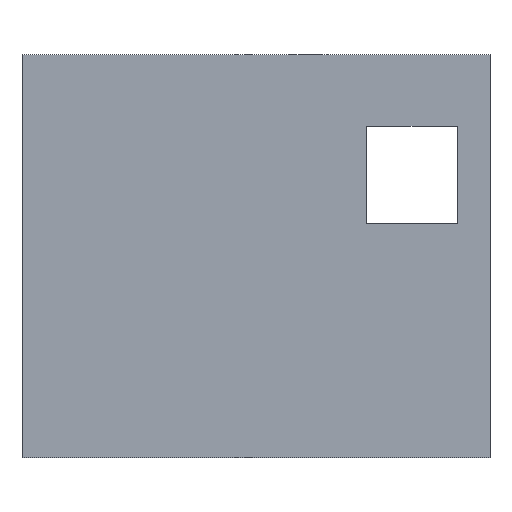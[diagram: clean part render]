
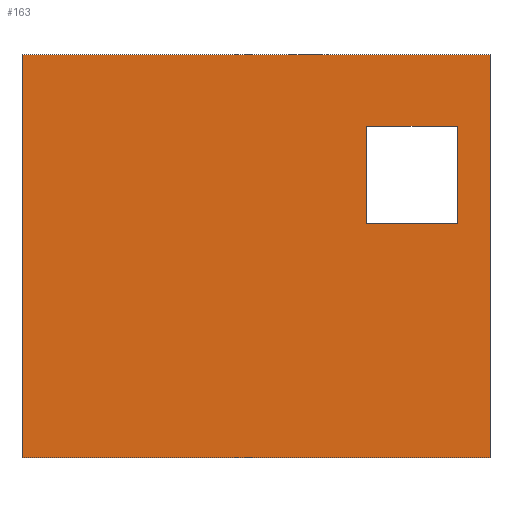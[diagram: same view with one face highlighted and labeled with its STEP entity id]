
A CAD part, front view. The second image highlights one B-rep face of the part: STEP entity #163.
In plain terms, the highlighted planar face has unit normal (0, -1, 0).
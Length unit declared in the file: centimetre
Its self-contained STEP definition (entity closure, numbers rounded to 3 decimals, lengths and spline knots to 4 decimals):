
#2 = DIRECTION ( 'NONE',  ( 0., 0., -1. ) ) ;
#7 = CARTESIAN_POINT ( 'NONE',  ( 3.1, 0., 0.5 ) ) ;
#8 = EDGE_CURVE ( 'NONE', #199, #530, #263, .T. ) ;
#17 = DIRECTION ( 'NONE',  ( 0., 0., 1. ) ) ;
#21 = EDGE_CURVE ( 'NONE', #395, #503, #559, .T. ) ;
#24 = ORIENTED_EDGE ( 'NONE', *, *, #8, .F. ) ;
#27 = EDGE_LOOP ( 'NONE', ( #155, #178, #207, #328 ) ) ;
#42 = CARTESIAN_POINT ( 'NONE',  ( 3.6, 0., -3.1 ) ) ;
#73 = CARTESIAN_POINT ( 'NONE',  ( -3.6, 0., -3.1 ) ) ;
#97 = LINE ( 'NONE', #492, #114 ) ;
#99 = ORIENTED_EDGE ( 'NONE', *, *, #513, .F. ) ;
#114 = VECTOR ( 'NONE', #208, 100. ) ;
#117 = EDGE_CURVE ( 'NONE', #503, #577, #512, .T. ) ;
#119 = DIRECTION ( 'NONE',  ( -1., 0., 0. ) ) ;
#133 = CARTESIAN_POINT ( 'NONE',  ( 1.7, 0., 0.5 ) ) ;
#144 = VERTEX_POINT ( 'NONE', #429 ) ;
#146 = VECTOR ( 'NONE', #119, 100. ) ;
#155 = ORIENTED_EDGE ( 'NONE', *, *, #505, .T. ) ;
#163 = ADVANCED_FACE ( 'NONE', ( #435, #572 ), #179, .F. ) ;
#168 = EDGE_CURVE ( 'NONE', #530, #481, #186, .T. ) ;
#178 = ORIENTED_EDGE ( 'NONE', *, *, #453, .T. ) ;
#179 = PLANE ( 'NONE',  #305 ) ;
#184 = DIRECTION ( 'NONE',  ( -1., 0., 0. ) ) ;
#186 = LINE ( 'NONE', #432, #362 ) ;
#194 = LINE ( 'NONE', #289, #613 ) ;
#198 = DIRECTION ( 'NONE',  ( 1., 0., 0. ) ) ;
#199 = VERTEX_POINT ( 'NONE', #73 ) ;
#200 = CARTESIAN_POINT ( 'NONE',  ( 3.1, 0., 2. ) ) ;
#207 = ORIENTED_EDGE ( 'NONE', *, *, #21, .T. ) ;
#208 = DIRECTION ( 'NONE',  ( 0., 0., -1. ) ) ;
#227 = VECTOR ( 'NONE', #184, 100. ) ;
#234 = DIRECTION ( 'NONE',  ( 0., 0., 1. ) ) ;
#236 = CARTESIAN_POINT ( 'NONE',  ( 1.7, 0., 2. ) ) ;
#263 = LINE ( 'NONE', #270, #268 ) ;
#267 = DIRECTION ( 'NONE',  ( 0., 0., 1. ) ) ;
#268 = VECTOR ( 'NONE', #17, 100. ) ;
#270 = CARTESIAN_POINT ( 'NONE',  ( -3.6, 0., -3.1 ) ) ;
#271 = CARTESIAN_POINT ( 'NONE',  ( 0., 0., 0. ) ) ;
#274 = VERTEX_POINT ( 'NONE', #200 ) ;
#289 = CARTESIAN_POINT ( 'NONE',  ( 0., 0., 2. ) ) ;
#305 = AXIS2_PLACEMENT_3D ( 'NONE', #271, #523, #234 ) ;
#310 = ORIENTED_EDGE ( 'NONE', *, *, #529, .F. ) ;
#328 = ORIENTED_EDGE ( 'NONE', *, *, #117, .T. ) ;
#347 = LINE ( 'NONE', #42, #574 ) ;
#362 = VECTOR ( 'NONE', #482, 100. ) ;
#395 = VERTEX_POINT ( 'NONE', #7 ) ;
#429 = CARTESIAN_POINT ( 'NONE',  ( 3.6, 0., -3.1 ) ) ;
#432 = CARTESIAN_POINT ( 'NONE',  ( -3.6, 0., 3.1 ) ) ;
#433 = CARTESIAN_POINT ( 'NONE',  ( -3.6, 0., 3.1 ) ) ;
#435 = FACE_BOUND ( 'NONE', #27, .T. ) ;
#448 = VECTOR ( 'NONE', #267, 100. ) ;
#453 = EDGE_CURVE ( 'NONE', #274, #395, #97, .T. ) ;
#464 = CARTESIAN_POINT ( 'NONE',  ( 0., 0., 0.5 ) ) ;
#481 = VERTEX_POINT ( 'NONE', #575 ) ;
#482 = DIRECTION ( 'NONE',  ( 1., 0., 0. ) ) ;
#486 = CARTESIAN_POINT ( 'NONE',  ( -3.6, 0., -3.1 ) ) ;
#492 = CARTESIAN_POINT ( 'NONE',  ( 3.1, 0., 0. ) ) ;
#501 = ORIENTED_EDGE ( 'NONE', *, *, #168, .F. ) ;
#503 = VERTEX_POINT ( 'NONE', #133 ) ;
#505 = EDGE_CURVE ( 'NONE', #577, #274, #194, .T. ) ;
#512 = LINE ( 'NONE', #600, #448 ) ;
#513 = EDGE_CURVE ( 'NONE', #481, #144, #347, .T. ) ;
#523 = DIRECTION ( 'NONE',  ( 0., 1., 0. ) ) ;
#529 = EDGE_CURVE ( 'NONE', #144, #199, #579, .T. ) ;
#530 = VERTEX_POINT ( 'NONE', #433 ) ;
#559 = LINE ( 'NONE', #464, #146 ) ;
#572 = FACE_OUTER_BOUND ( 'NONE', #599, .T. ) ;
#574 = VECTOR ( 'NONE', #2, 100. ) ;
#575 = CARTESIAN_POINT ( 'NONE',  ( 3.6, 0., 3.1 ) ) ;
#577 = VERTEX_POINT ( 'NONE', #236 ) ;
#579 = LINE ( 'NONE', #486, #227 ) ;
#599 = EDGE_LOOP ( 'NONE', ( #99, #501, #24, #310 ) ) ;
#600 = CARTESIAN_POINT ( 'NONE',  ( 1.7, 0., 0. ) ) ;
#613 = VECTOR ( 'NONE', #198, 100. ) ;
